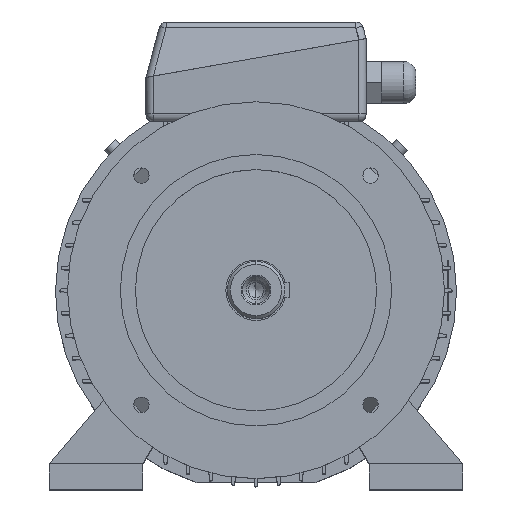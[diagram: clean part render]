
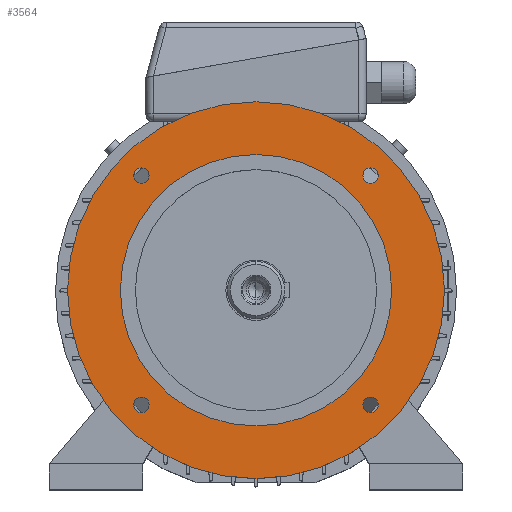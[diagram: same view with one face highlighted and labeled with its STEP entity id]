
A CAD part, top view. The second image highlights one B-rep face of the part: STEP entity #3564.
In plain terms, the highlighted planar face has unit normal (0, 0, 1).
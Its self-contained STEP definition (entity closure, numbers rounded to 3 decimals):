
#188 = EDGE_CURVE ( 'NONE', #1188, #13777, #9418, .T. ) ;
#257 = CARTESIAN_POINT ( 'NONE',  ( 70.914, 76.014, 58. ) ) ;
#441 = ORIENTED_EDGE ( 'NONE', *, *, #8343, .F. ) ;
#536 = EDGE_CURVE ( 'NONE', #6995, #7312, #9529, .T. ) ;
#808 = VERTEX_POINT ( 'NONE', #9712 ) ;
#960 = ORIENTED_EDGE ( 'NONE', *, *, #536, .F. ) ;
#1023 = EDGE_LOOP ( 'NONE', ( #441, #13698 ) ) ;
#1064 = EDGE_CURVE ( 'NONE', #1889, #808, #9837, .T. ) ;
#1188 = VERTEX_POINT ( 'NONE', #9918 ) ;
#1292 = ORIENTED_EDGE ( 'NONE', *, *, #188, .F. ) ;
#1543 = ORIENTED_EDGE ( 'NONE', *, *, #2318, .F. ) ;
#1889 = VERTEX_POINT ( 'NONE', #10305 ) ;
#1953 = CARTESIAN_POINT ( 'NONE',  ( -70.914, -76.014, 58. ) ) ;
#2070 = VERTEX_POINT ( 'NONE', #10382 ) ;
#2110 = EDGE_CURVE ( 'NONE', #2070, #3314, #10383, .T. ) ;
#2318 = EDGE_CURVE ( 'NONE', #3314, #2070, #10485, .T. ) ;
#2526 = ORIENTED_EDGE ( 'NONE', *, *, #2110, .F. ) ;
#2815 = CARTESIAN_POINT ( 'NONE',  ( -90., 0., 58. ) ) ;
#2865 = CARTESIAN_POINT ( 'NONE',  ( 90., 0., 58. ) ) ;
#3046 = CIRCLE ( 'NONE', #3047, 90. ) ;
#3047 = AXIS2_PLACEMENT_3D ( 'NONE', #3048, #3049, #3050 ) ;
#3048 = CARTESIAN_POINT ( 'NONE',  ( 0., 0., 58. ) ) ;
#3049 = DIRECTION ( 'NONE',  ( 0., 0., 1. ) ) ;
#3050 = DIRECTION ( 'NONE',  ( 1., 0., 0. ) ) ;
#3293 = EDGE_LOOP ( 'NONE', ( #2526, #1543 ) ) ;
#3314 = VERTEX_POINT ( 'NONE', #11516 ) ;
#3564 = ADVANCED_FACE ( 'NONE', ( #11637, #11638, #11639, #11640, #11641, #11642 ), #11647, .F. ) ;
#4418 = CARTESIAN_POINT ( 'NONE',  ( 125., 0., 58. ) ) ;
#4524 = CIRCLE ( 'NONE', #4525, 125. ) ;
#4525 = AXIS2_PLACEMENT_3D ( 'NONE', #4526, #4527, #4528 ) ;
#4526 = CARTESIAN_POINT ( 'NONE',  ( 0., 0., 58. ) ) ;
#4527 = DIRECTION ( 'NONE',  ( 0., 0., 1. ) ) ;
#4528 = DIRECTION ( 'NONE',  ( 1., 0., 0. ) ) ;
#5150 = CARTESIAN_POINT ( 'NONE',  ( -125., 0., 58. ) ) ;
#5168 = EDGE_CURVE ( 'NONE', #8242, #8281, #12553, .T. ) ;
#5856 = CIRCLE ( 'NONE', #5857, 5.1 ) ;
#5857 = AXIS2_PLACEMENT_3D ( 'NONE', #5858, #5859, #5865 ) ;
#5858 = CARTESIAN_POINT ( 'NONE',  ( -76.014, -76.014, 58. ) ) ;
#5859 = DIRECTION ( 'NONE',  ( 0., 0., 1. ) ) ;
#5865 = DIRECTION ( 'NONE',  ( 1., 0., 0. ) ) ;
#6341 = CIRCLE ( 'NONE', #6342, 125. ) ;
#6342 = AXIS2_PLACEMENT_3D ( 'NONE', #6343, #6344, #6345 ) ;
#6343 = CARTESIAN_POINT ( 'NONE',  ( 0., 0., 58. ) ) ;
#6344 = DIRECTION ( 'NONE',  ( 0., 0., 1. ) ) ;
#6345 = DIRECTION ( 'NONE',  ( 1., 0., 0. ) ) ;
#6754 = CIRCLE ( 'NONE', #6755, 5.1 ) ;
#6755 = AXIS2_PLACEMENT_3D ( 'NONE', #6762, #6763, #6764 ) ;
#6762 = CARTESIAN_POINT ( 'NONE',  ( 76.014, -76.014, 58. ) ) ;
#6763 = DIRECTION ( 'NONE',  ( 0., 0., 1. ) ) ;
#6764 = DIRECTION ( 'NONE',  ( 1., 0., 0. ) ) ;
#6995 = VERTEX_POINT ( 'NONE', #13498 ) ;
#7091 = EDGE_CURVE ( 'NONE', #7312, #6995, #13585, .T. ) ;
#7312 = VERTEX_POINT ( 'NONE', #257 ) ;
#8242 = VERTEX_POINT ( 'NONE', #2815 ) ;
#8281 = VERTEX_POINT ( 'NONE', #2865 ) ;
#8343 = EDGE_CURVE ( 'NONE', #8281, #8242, #3046, .T. ) ;
#8781 = EDGE_LOOP ( 'NONE', ( #960, #13800 ) ) ;
#8972 = VERTEX_POINT ( 'NONE', #4418 ) ;
#9021 = EDGE_CURVE ( 'NONE', #8972, #9308, #4524, .T. ) ;
#9308 = VERTEX_POINT ( 'NONE', #5150 ) ;
#9418 = CIRCLE ( 'NONE', #9419, 5.1 ) ;
#9419 = AXIS2_PLACEMENT_3D ( 'NONE', #9420, #9421, #9422 ) ;
#9420 = CARTESIAN_POINT ( 'NONE',  ( -76.014, -76.014, 58. ) ) ;
#9421 = DIRECTION ( 'NONE',  ( 0., 0., 1. ) ) ;
#9422 = DIRECTION ( 'NONE',  ( 1., 0., 0. ) ) ;
#9529 = CIRCLE ( 'NONE', #9530, 5.1 ) ;
#9530 = AXIS2_PLACEMENT_3D ( 'NONE', #9531, #9532, #9533 ) ;
#9531 = CARTESIAN_POINT ( 'NONE',  ( 76.014, 76.014, 58. ) ) ;
#9532 = DIRECTION ( 'NONE',  ( 0., 0., 1. ) ) ;
#9533 = DIRECTION ( 'NONE',  ( 1., 0., 0. ) ) ;
#9712 = CARTESIAN_POINT ( 'NONE',  ( 81.114, -76.014, 58. ) ) ;
#9837 = CIRCLE ( 'NONE', #9838, 5.1 ) ;
#9838 = AXIS2_PLACEMENT_3D ( 'NONE', #9839, #9840, #9841 ) ;
#9839 = CARTESIAN_POINT ( 'NONE',  ( 76.014, -76.014, 58. ) ) ;
#9840 = DIRECTION ( 'NONE',  ( 0., 0., 1. ) ) ;
#9841 = DIRECTION ( 'NONE',  ( 1., 0., 0. ) ) ;
#9918 = CARTESIAN_POINT ( 'NONE',  ( -81.114, -76.014, 58. ) ) ;
#10305 = CARTESIAN_POINT ( 'NONE',  ( 70.914, -76.014, 58. ) ) ;
#10382 = CARTESIAN_POINT ( 'NONE',  ( -70.914, 76.014, 58. ) ) ;
#10383 = CIRCLE ( 'NONE', #10384, 5.1 ) ;
#10384 = AXIS2_PLACEMENT_3D ( 'NONE', #10385, #10386, #10387 ) ;
#10385 = CARTESIAN_POINT ( 'NONE',  ( -76.014, 76.014, 58. ) ) ;
#10386 = DIRECTION ( 'NONE',  ( 0., 0., 1. ) ) ;
#10387 = DIRECTION ( 'NONE',  ( 1., 0., 0. ) ) ;
#10485 = CIRCLE ( 'NONE', #10486, 5.1 ) ;
#10486 = AXIS2_PLACEMENT_3D ( 'NONE', #10487, #10488, #10489 ) ;
#10487 = CARTESIAN_POINT ( 'NONE',  ( -76.014, 76.014, 58. ) ) ;
#10488 = DIRECTION ( 'NONE',  ( 0., 0., 1. ) ) ;
#10489 = DIRECTION ( 'NONE',  ( 1., 0., 0. ) ) ;
#10708 = EDGE_CURVE ( 'NONE', #13777, #1188, #5856, .T. ) ;
#11122 = ORIENTED_EDGE ( 'NONE', *, *, #10708, .F. ) ;
#11516 = CARTESIAN_POINT ( 'NONE',  ( -81.114, 76.014, 58. ) ) ;
#11637 = FACE_BOUND ( 'NONE', #3293, .T. ) ;
#11638 = FACE_BOUND ( 'NONE', #8781, .T. ) ;
#11639 = FACE_BOUND ( 'NONE', #13532, .T. ) ;
#11640 = FACE_BOUND ( 'NONE', #11705, .T. ) ;
#11641 = FACE_BOUND ( 'NONE', #1023, .T. ) ;
#11642 = FACE_OUTER_BOUND ( 'NONE', #13423, .T. ) ;
#11647 = PLANE ( 'NONE',  #11648 ) ;
#11648 = AXIS2_PLACEMENT_3D ( 'NONE', #11649, #11650, #11651 ) ;
#11649 = CARTESIAN_POINT ( 'NONE',  ( 0., 125., 58. ) ) ;
#11650 = DIRECTION ( 'NONE',  ( 0., 0., -1. ) ) ;
#11651 = DIRECTION ( 'NONE',  ( -1., 0., 0. ) ) ;
#11686 = EDGE_CURVE ( 'NONE', #9308, #8972, #6341, .T. ) ;
#11705 = EDGE_LOOP ( 'NONE', ( #11122, #1292 ) ) ;
#11970 = ORIENTED_EDGE ( 'NONE', *, *, #1064, .F. ) ;
#12098 = ORIENTED_EDGE ( 'NONE', *, *, #11686, .T. ) ;
#12547 = EDGE_CURVE ( 'NONE', #808, #1889, #6754, .T. ) ;
#12553 = CIRCLE ( 'NONE', #12554, 90. ) ;
#12554 = AXIS2_PLACEMENT_3D ( 'NONE', #12555, #12556, #12557 ) ;
#12555 = CARTESIAN_POINT ( 'NONE',  ( 0., 0., 58. ) ) ;
#12556 = DIRECTION ( 'NONE',  ( 0., 0., 1. ) ) ;
#12557 = DIRECTION ( 'NONE',  ( 1., 0., 0. ) ) ;
#12671 = ORIENTED_EDGE ( 'NONE', *, *, #9021, .T. ) ;
#12953 = ORIENTED_EDGE ( 'NONE', *, *, #12547, .F. ) ;
#13423 = EDGE_LOOP ( 'NONE', ( #12671, #12098 ) ) ;
#13498 = CARTESIAN_POINT ( 'NONE',  ( 81.114, 76.014, 58. ) ) ;
#13532 = EDGE_LOOP ( 'NONE', ( #12953, #11970 ) ) ;
#13585 = CIRCLE ( 'NONE', #13586, 5.1 ) ;
#13586 = AXIS2_PLACEMENT_3D ( 'NONE', #13587, #13588, #13589 ) ;
#13587 = CARTESIAN_POINT ( 'NONE',  ( 76.014, 76.014, 58. ) ) ;
#13588 = DIRECTION ( 'NONE',  ( 0., 0., 1. ) ) ;
#13589 = DIRECTION ( 'NONE',  ( 1., 0., 0. ) ) ;
#13698 = ORIENTED_EDGE ( 'NONE', *, *, #5168, .F. ) ;
#13777 = VERTEX_POINT ( 'NONE', #1953 ) ;
#13800 = ORIENTED_EDGE ( 'NONE', *, *, #7091, .F. ) ;
